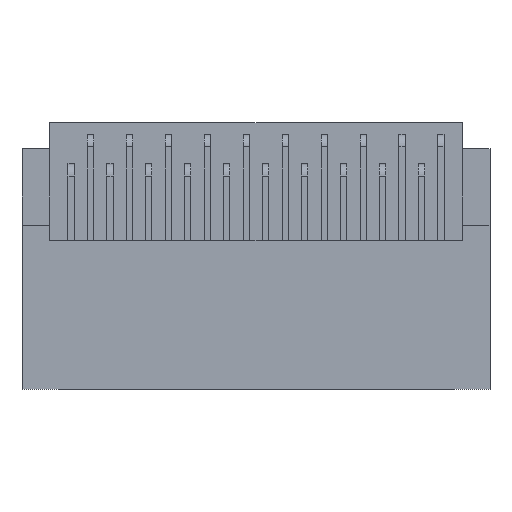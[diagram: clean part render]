
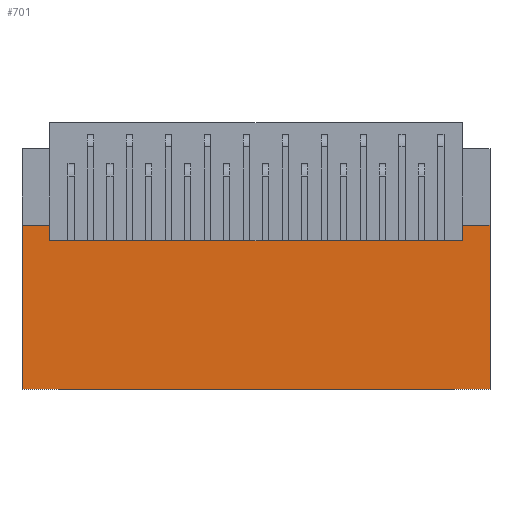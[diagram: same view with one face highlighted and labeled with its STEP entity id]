
A CAD part, top view. The second image highlights one B-rep face of the part: STEP entity #701.
In plain terms, the highlighted planar face has unit normal (0, 0, 1).
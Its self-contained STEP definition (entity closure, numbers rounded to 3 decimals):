
#701=ADVANCED_FACE('',(#1766),#1234,.T.);
#1234=PLANE('',#11809);
#1766=FACE_OUTER_BOUND('',#2421,.T.);
#2421=EDGE_LOOP('',(#4455,#4456,#4457,#4458,#4459,#4460,#4461,#4462));
#4455=ORIENTED_EDGE('',*,*,#7980,.T.);
#4456=ORIENTED_EDGE('',*,*,#7981,.T.);
#4457=ORIENTED_EDGE('',*,*,#7982,.F.);
#4458=ORIENTED_EDGE('',*,*,#7983,.F.);
#4459=ORIENTED_EDGE('',*,*,#7984,.F.);
#4460=ORIENTED_EDGE('',*,*,#7567,.F.);
#4461=ORIENTED_EDGE('',*,*,#7360,.F.);
#4462=ORIENTED_EDGE('',*,*,#7561,.F.);
#6259=VERTEX_POINT('',#15887);
#6260=VERTEX_POINT('',#15889);
#6367=VERTEX_POINT('',#16292);
#6372=VERTEX_POINT('',#16305);
#6647=VERTEX_POINT('',#17088);
#6648=VERTEX_POINT('',#17092);
#6649=VERTEX_POINT('',#17094);
#6650=VERTEX_POINT('',#17096);
#7360=EDGE_CURVE('',#6259,#6260,#8872,.T.);
#7561=EDGE_CURVE('',#6367,#6259,#9071,.T.);
#7567=EDGE_CURVE('',#6260,#6372,#9076,.T.);
#7980=EDGE_CURVE('',#6367,#6647,#9487,.T.);
#7981=EDGE_CURVE('',#6647,#6648,#9488,.T.);
#7982=EDGE_CURVE('',#6649,#6648,#9489,.T.);
#7983=EDGE_CURVE('',#6650,#6649,#9490,.T.);
#7984=EDGE_CURVE('',#6372,#6650,#9491,.T.);
#8872=LINE('',#15888,#10298);
#9071=LINE('',#16293,#10497);
#9076=LINE('',#16304,#10502);
#9487=LINE('',#17089,#10913);
#9488=LINE('',#17091,#10914);
#9489=LINE('',#17093,#10915);
#9490=LINE('',#17095,#10916);
#9491=LINE('',#17097,#10917);
#10298=VECTOR('',#12832,1.);
#10497=VECTOR('',#13219,1.);
#10502=VECTOR('',#13228,1.);
#10913=VECTOR('',#13835,1.);
#10914=VECTOR('',#13838,1.);
#10915=VECTOR('',#13839,1.);
#10916=VECTOR('',#13840,1.);
#10917=VECTOR('',#13841,1.);
#11809=AXIS2_PLACEMENT_3D('',#17098,#13842,#13843);
#12832=DIRECTION('',(1.,0.,0.));
#13219=DIRECTION('',(0.,1.,0.));
#13228=DIRECTION('',(0.,-1.,0.));
#13835=DIRECTION('',(1.,0.,0.));
#13838=DIRECTION('',(0.,1.,0.));
#13839=DIRECTION('',(1.,0.,0.));
#13840=DIRECTION('',(0.,1.,0.));
#13841=DIRECTION('',(1.,0.,0.));
#13842=DIRECTION('',(0.,0.,1.));
#13843=DIRECTION('',(0.,-1.,0.));
#15887=CARTESIAN_POINT('',(-13.23,-0.053,6.053));
#15888=CARTESIAN_POINT('',(-13.23,-0.053,6.053));
#15889=CARTESIAN_POINT('',(-11.43,-0.053,6.053));
#16292=CARTESIAN_POINT('',(-13.23,-10.753,6.053));
#16293=CARTESIAN_POINT('',(-13.23,-10.753,6.053));
#16304=CARTESIAN_POINT('',(-11.43,-0.053,6.053));
#16305=CARTESIAN_POINT('',(-11.43,-1.053,6.053));
#17088=CARTESIAN_POINT('',(17.3,-10.753,6.053));
#17089=CARTESIAN_POINT('',(-18.31,-10.753,6.053));
#17091=CARTESIAN_POINT('',(17.3,-10.753,6.053));
#17092=CARTESIAN_POINT('',(17.3,-0.053,6.053));
#17093=CARTESIAN_POINT('',(15.5,-0.053,6.053));
#17094=CARTESIAN_POINT('',(15.5,-0.053,6.053));
#17095=CARTESIAN_POINT('',(15.5,-1.053,6.053));
#17096=CARTESIAN_POINT('',(15.5,-1.053,6.053));
#17097=CARTESIAN_POINT('',(-16.51,-1.053,6.053));
#17098=CARTESIAN_POINT('',(-18.81,0.216,6.053));
